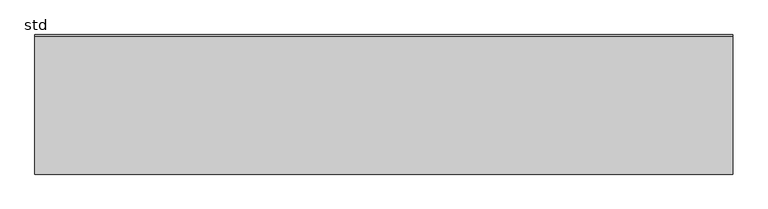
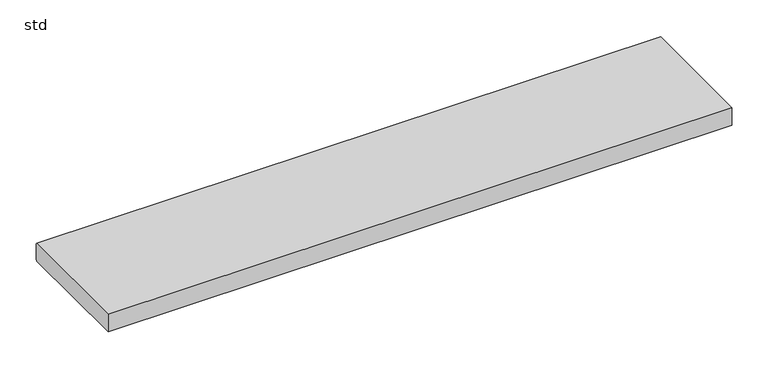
"""IFC4 building model written with IfcOpenShell, lengths in millimetres: proxy geometry, 400_24_NS_dorpel : std."""

from ifc_helpers import new_model, si_unit, frame, origin, place, context, project, spatial, polyline, outline, extrude, source, transform, mapped, element, save


def std_f690763c(model_context):
    return source(origin(), model_context, "Body", "SweptSolid", [
        extrude(outline(polyline([(0.0, 0.0), (0.0, 30.0), (198.0, 30.0), (200.0, 28.0), (200.0, 2.0), (198.0, 0.0), (0.0, 0.0)])), frame((-500.0, 0.0, 0.0), z_axis=(1.0, 0.0, 0.0), x_axis=(0.0, 1.0, 0.0)), (0.0, 0.0, 1.0), 1000.0),
    ])


if __name__ == "__main__":
    model = new_model("IFC4")
    model_context = context("Model", 3, world=origin())
    ifc_project = project(units=[si_unit("LENGTHUNIT", "METRE", prefix="MILLI")], contexts=[model_context])
    site = spatial("IfcSite", under=ifc_project)
    building = spatial("IfcBuilding", under=site)
    placement = place(None, origin())
    std_shape = std_f690763c(model_context)
    element("IfcBuildingElementProxy", 1, Name="400_24_NS_dorpel : std", ObjectType="400_24_NS_dorpel : std", at=placement, inside=building, context=model_context, shape_type="MappedRepresentation", body=[
        mapped(std_shape, transform((0.0, 0.0, 0.0), x_axis=(1.0, 0.0, 0.0), y_axis=(0.0, 1.0, 0.0), z_axis=(0.0, 0.0, 1.0))),
    ])
    save(model, "model.ifc")
